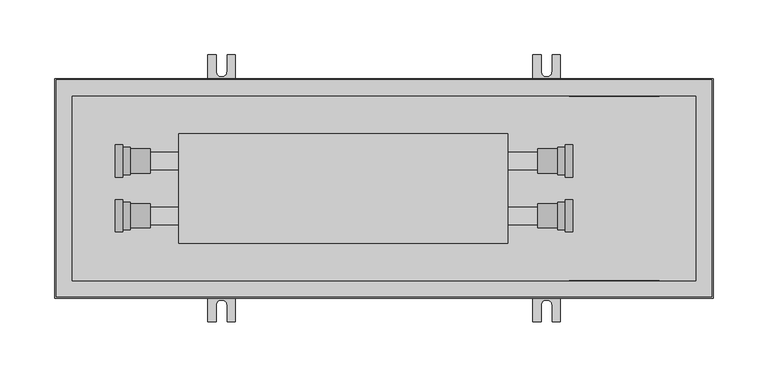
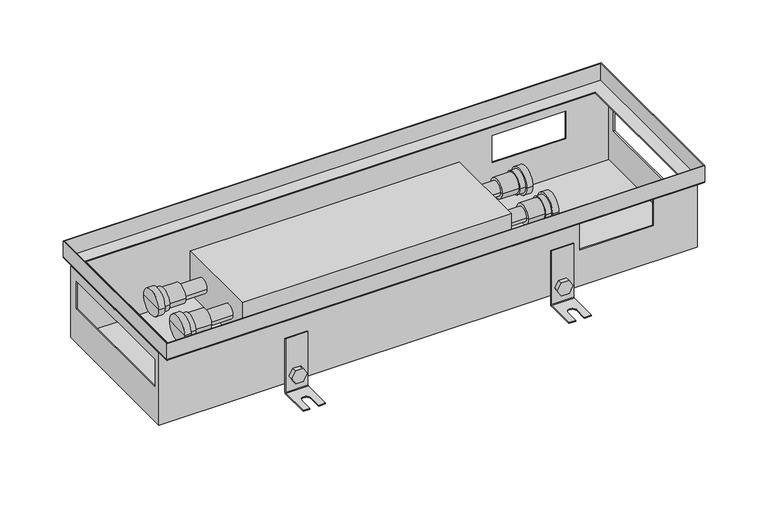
"""IFC4 building model written with IfcOpenShell, lengths in millimetres: proxy geometry, TECHNO_Конвектор встраиваемый_Usual_KVP-200_85-105-120 : KVP 200-105."""

from ifc_helpers import new_model, si_unit, point, frame, frame_2d, origin, place, context, project, spatial, polyline, circle_curve, ellipse_curve, trimmed, segment, composite_curve, outline, extrude, faceted_brep, source, transform, mapped, element, save
from ifc_brep_helpers import plane_surface, cylinder_surface, revolved_surface, advanced_brep


def mechanical_equipment_a27507a9(model_context):
    return source(origin(), model_context, "Body", "SolidModel", [
        extrude(outline(composite_curve([segment(trimmed(circle_curve(frame_2d((-95.5, 448.2)), 7.5), [point((-95.5, 440.7))], [point((-95.5, 455.7))], False, "CARTESIAN"), True, "CONTINUOUS"), segment(trimmed(circle_curve(frame_2d((-95.5, 448.2)), 7.5), [point((-95.5, 455.7))], [point((-95.5, 440.7))], False, "CARTESIAN"), True, "CONTINUOUS")], self_intersect=False)), frame((0.0, 85.2, 0.0), z_axis=(0.0, 1.0, 0.0), x_axis=(0.0, 0.0, 1.0)), (0.0, 0.0, 1.0), 1.5),
        extrude(outline(polyline([(-95.5, 439.539746), (-103.0, 443.869873), (-103.0, 452.530127), (-95.5, 456.860254), (-88.0, 452.530127), (-88.0, 443.869873), (-95.5, 439.539746)])), frame((0.0, 87.9, 0.0), z_axis=(0.0, 1.0, 0.0), x_axis=(0.0, 0.0, 1.0)), (0.0, 0.0, 1.0), 5.1),
        advanced_brep(
        [(460.7, 87.9, -50.5), (460.7, 86.7, -50.5), (460.7, 86.7, -113.5), (460.7, 88.7, -115.5), (460.7, 121.7, -115.5), (460.7, 121.7, -114.3), (460.7, 88.7, -114.3), (460.7, 87.9, -113.5), (435.7, 87.9, -50.5), (435.7, 87.9, -113.5), (435.7, 88.7, -114.3), (435.7, 121.7, -114.3), (435.7, 121.7, -115.5), (435.7, 88.7, -115.5), (435.7, 86.7, -113.5), (435.7, 86.7, -50.5), (453.2, 121.7, -114.3), (453.2, 106.7, -114.3), (443.2, 106.7, -114.3), (443.2, 121.7, -114.3), (443.2, 121.7, -115.5), (453.2, 121.7, -115.5), (443.2, 106.7, -115.5), (453.2, 106.7, -115.5)],
        [
            (0, 1),
            (1, 2),
            (2, 3, circle_curve(frame((460.7, 88.7, -113.5), z_axis=(1.0, 0.0, 0.0), x_axis=(0.0, 1.0, 0.0)), 2.0)),
            (3, 4),
            (4, 5),
            (5, 6),
            (6, 7, circle_curve(frame((460.7, 88.7, -113.5), z_axis=(-1.0, 0.0, 0.0), x_axis=(0.0, 1.0, 0.0)), 0.8)),
            (7, 0),
            (8, 9),
            (9, 10, circle_curve(frame((435.7, 88.7, -113.5), z_axis=(1.0, 0.0, 0.0), x_axis=(0.0, 1.0, 0.0)), 0.8)),
            (10, 11),
            (11, 12),
            (12, 13),
            (13, 14, circle_curve(frame((435.7, 88.7, -113.5), z_axis=(-1.0, 0.0, 0.0), x_axis=(0.0, 1.0, 0.0)), 2.0)),
            (14, 15),
            (15, 8),
            (7, 9),
            (8, 0),
            (6, 10),
            (5, 16),
            (16, 17),
            (17, 18, circle_curve(frame((448.2, 106.7, -114.3), z_axis=(0.0, 0.0, -1.0), x_axis=(1.0, 0.0, 0.0)), 5.0)),
            (18, 19),
            (19, 11),
            (19, 20),
            (20, 12),
            (4, 21),
            (21, 16),
            (3, 13),
            (20, 22),
            (22, 23, circle_curve(frame((448.2, 106.7, -115.5), z_axis=(0.0, 0.0, 1.0), x_axis=(1.0, 0.0, 0.0)), 5.0)),
            (23, 21),
            (2, 14),
            (1, 15),
            (18, 22),
            (23, 17),
        ],
        [
            plane_surface(frame((460.7, 87.9, -50.5), z_axis=(1.0, 0.0, 0.0), x_axis=(0.0, 0.0, -1.0))),
            plane_surface(frame((435.7, 87.9, -50.5), z_axis=(-1.0, 0.0, 0.0), x_axis=(0.0, 0.0, 1.0))),
            plane_surface(frame((460.7, 87.9, -50.5), z_axis=(0.0, 1.0, 0.0), x_axis=(-1.0, 0.0, 0.0))),
            revolved_surface(polyline([(435.7, 89.5, -113.5), (460.7, 89.5, -113.5)]), (435.7, 88.7, -113.5), (-1.0, 0.0, 0.0)),
            plane_surface(frame((460.7, 88.7, -114.3), z_axis=(0.0, 0.0, 1.0), x_axis=(-1.0, 0.0, 0.0))),
            plane_surface(frame((460.7, 121.7, -114.3), z_axis=(0.0, 1.0, 0.0), x_axis=(-1.0, 0.0, 0.0))),
            plane_surface(frame((460.7, 121.7, -115.5), z_axis=(0.0, 0.0, -1.0), x_axis=(-1.0, 0.0, 0.0))),
            cylinder_surface(frame((435.7, 88.7, -113.5), z_axis=(1.0, 0.0, 0.0), x_axis=(0.0, 1.0, 0.0)), 2.0),
            plane_surface(frame((460.7, 86.7, -113.5), z_axis=(0.0, -1.0, 0.0), x_axis=(-1.0, 0.0, 0.0))),
            plane_surface(frame((460.7, 86.7, -50.5), z_axis=(0.0, 0.0, 1.0), x_axis=(-1.0, 0.0, 0.0))),
            plane_surface(frame((443.2, 106.7, -114.3), z_axis=(1.0, 0.0, 0.0), x_axis=(0.0, 0.0, -1.0))),
            plane_surface(frame((453.2, 121.7, -114.3), z_axis=(-1.0, 0.0, 0.0), x_axis=(0.0, 0.0, -1.0))),
            revolved_surface(polyline([(453.2, 106.7, -114.3), (453.2, 106.7, -115.5)]), (448.2, 106.7, -115.5), (0.0, 0.0, 1.0)),
        ],
        [
            (0, [[1, 2, 3, 4, 5, 6, 7, 8]]),
            (1, [[9, 10, 11, 12, 13, 14, 15, 16]]),
            (2, [[17, -9, 18, -8]]),
            (3, [[19, -10, -17, -7]]),
            (4, [[20, 21, 22, 23, 24, -11, -19, -6]]),
            (5, [[-24, 25, 26, -12]]),
            (5, [[27, 28, -20, -5]]),
            (6, [[29, -13, -26, 30, 31, 32, -27, -4]]),
            (7, [[33, -14, -29, -3]]),
            (8, [[34, -15, -33, -2]]),
            (9, [[-18, -16, -34, -1]]),
            (10, [[-30, -25, -23, 35]]),
            (11, [[-21, -28, -32, 36]]),
            (12, [[-22, -36, -31, -35]]),
        ],
    ),
        extrude(outline(composite_curve([segment(trimmed(circle_curve(frame_2d((-95.5, 448.2)), 7.5), [point((-95.5, 440.7))], [point((-95.5, 455.7))], False, "CARTESIAN"), True, "CONTINUOUS"), segment(trimmed(circle_curve(frame_2d((-95.5, 448.2)), 7.5), [point((-95.5, 455.7))], [point((-95.5, 440.7))], False, "CARTESIAN"), True, "CONTINUOUS")], self_intersect=False)), frame((0.0, -86.7, 0.0), z_axis=(0.0, 1.0, 0.0), x_axis=(0.0, 0.0, 1.0)), (0.0, 0.0, 1.0), 1.5),
        extrude(outline(polyline([(-95.5, 439.539746), (-103.0, 443.869873), (-103.0, 452.530127), (-95.5, 456.860254), (-88.0, 452.530127), (-88.0, 443.869873), (-95.5, 439.539746)])), frame((0.0, -93.0, 0.0), z_axis=(0.0, 1.0, 0.0), x_axis=(0.0, 0.0, 1.0)), (0.0, 0.0, 1.0), 5.1),
        advanced_brep(
        [(460.7, -87.9, -50.5), (460.7, -87.9, -113.5), (460.7, -88.7, -114.3), (460.7, -121.7, -114.3), (460.7, -121.7, -115.5), (460.7, -88.7, -115.5), (460.7, -86.7, -113.5), (460.7, -86.7, -50.5), (435.7, -87.9, -50.5), (435.7, -86.7, -50.5), (435.7, -86.7, -113.5), (435.7, -88.7, -115.5), (435.7, -121.7, -115.5), (435.7, -121.7, -114.3), (435.7, -88.7, -114.3), (435.7, -87.9, -113.5), (443.2, -121.7, -114.3), (443.2, -106.7, -114.3), (453.2, -106.7, -114.3), (453.2, -121.7, -114.3), (453.2, -121.7, -115.5), (443.2, -121.7, -115.5), (453.2, -106.7, -115.5), (443.2, -106.7, -115.5)],
        [
            (0, 1),
            (1, 2, circle_curve(frame((460.7, -88.7, -113.5), z_axis=(-1.0, 0.0, 0.0), x_axis=(0.0, -1.0, 0.0)), 0.8)),
            (2, 3),
            (3, 4),
            (4, 5),
            (5, 6, circle_curve(frame((460.7, -88.7, -113.5), z_axis=(1.0, 0.0, 0.0), x_axis=(0.0, -1.0, 0.0)), 2.0)),
            (6, 7),
            (7, 0),
            (8, 9),
            (9, 10),
            (10, 11, circle_curve(frame((435.7, -88.7, -113.5), z_axis=(-1.0, 0.0, 0.0), x_axis=(0.0, -1.0, 0.0)), 2.0)),
            (11, 12),
            (12, 13),
            (13, 14),
            (14, 15, circle_curve(frame((435.7, -88.7, -113.5), z_axis=(1.0, 0.0, 0.0), x_axis=(0.0, -1.0, 0.0)), 0.8)),
            (15, 8),
            (0, 8),
            (15, 1),
            (14, 2),
            (13, 16),
            (16, 17),
            (17, 18, circle_curve(frame((448.2, -106.7, -114.3), z_axis=(0.0, 0.0, -1.0), x_axis=(1.0, 0.0, 0.0)), 5.0)),
            (18, 19),
            (19, 3),
            (19, 20),
            (20, 4),
            (12, 21),
            (21, 16),
            (20, 22),
            (22, 23, circle_curve(frame((448.2, -106.7, -115.5), z_axis=(0.0, 0.0, 1.0), x_axis=(1.0, 0.0, 0.0)), 5.0)),
            (23, 21),
            (11, 5),
            (10, 6),
            (9, 7),
            (23, 17),
            (18, 22),
        ],
        [
            plane_surface(frame((460.7, -87.9, -50.5), z_axis=(1.0, 0.0, 0.0), x_axis=(0.0, 0.0, -1.0))),
            plane_surface(frame((435.7, -87.9, -50.5), z_axis=(-1.0, 0.0, 0.0), x_axis=(0.0, 0.0, 1.0))),
            plane_surface(frame((460.7, -87.9, -50.5), z_axis=(0.0, -1.0, 0.0), x_axis=(-1.0, 0.0, 0.0))),
            revolved_surface(polyline([(435.7, -89.5, -113.5), (460.7, -89.5, -113.5)]), (435.7, -88.7, -113.5), (-1.0, 0.0, 0.0)),
            plane_surface(frame((460.7, -88.7, -114.3), z_axis=(0.0, 0.0, 1.0), x_axis=(-1.0, 0.0, 0.0))),
            plane_surface(frame((460.7, -121.7, -114.3), z_axis=(0.0, -1.0, 0.0), x_axis=(-1.0, 0.0, 0.0))),
            plane_surface(frame((460.7, -121.7, -115.5), z_axis=(0.0, 0.0, -1.0), x_axis=(-1.0, 0.0, 0.0))),
            cylinder_surface(frame((435.7, -88.7, -113.5), z_axis=(1.0, 0.0, 0.0), x_axis=(0.0, -1.0, 0.0)), 2.0),
            plane_surface(frame((460.7, -86.7, -113.5), z_axis=(0.0, 1.0, 0.0), x_axis=(-1.0, 0.0, 0.0))),
            plane_surface(frame((460.7, -86.7, -50.5), z_axis=(0.0, 0.0, 1.0), x_axis=(-1.0, 0.0, 0.0))),
            plane_surface(frame((443.2, -106.7, -114.3), z_axis=(1.0, 0.0, 0.0), x_axis=(0.0, 0.0, -1.0))),
            plane_surface(frame((453.2, -121.7, -114.3), z_axis=(-1.0, 0.0, 0.0), x_axis=(0.0, 0.0, -1.0))),
            revolved_surface(polyline([(453.2, -106.7, -114.3), (453.2, -106.7, -115.5)]), (448.2, -106.7, -115.5), (0.0, 0.0, 1.0)),
        ],
        [
            (0, [[1, 2, 3, 4, 5, 6, 7, 8]]),
            (1, [[9, 10, 11, 12, 13, 14, 15, 16]]),
            (2, [[-1, 17, -16, 18]]),
            (3, [[-2, -18, -15, 19]]),
            (4, [[-3, -19, -14, 20, 21, 22, 23, 24]]),
            (5, [[-4, -24, 25, 26]]),
            (5, [[-13, 27, 28, -20]]),
            (6, [[-5, -26, 29, 30, 31, -27, -12, 32]]),
            (7, [[-6, -32, -11, 33]]),
            (8, [[-7, -33, -10, 34]]),
            (9, [[-8, -34, -9, -17]]),
            (10, [[35, -21, -28, -31]]),
            (11, [[36, -29, -25, -23]]),
            (12, [[-35, -30, -36, -22]]),
        ],
    ),
        extrude(outline(composite_curve([segment(trimmed(circle_curve(frame_2d((-95.5, 152.0)), 7.5), [point((-95.5, 144.5))], [point((-95.5, 159.5))], False, "CARTESIAN"), True, "CONTINUOUS"), segment(trimmed(circle_curve(frame_2d((-95.5, 152.0)), 7.5), [point((-95.5, 159.5))], [point((-95.5, 144.5))], False, "CARTESIAN"), True, "CONTINUOUS")], self_intersect=False)), frame((0.0, 85.2, 0.0), z_axis=(0.0, 1.0, 0.0), x_axis=(0.0, 0.0, 1.0)), (0.0, 0.0, 1.0), 1.5),
        extrude(outline(polyline([(-95.5, 143.339746), (-103.0, 147.669873), (-103.0, 156.330127), (-95.5, 160.660254), (-88.0, 156.330127), (-88.0, 147.669873), (-95.5, 143.339746)])), frame((0.0, 87.9, 0.0), z_axis=(0.0, 1.0, 0.0), x_axis=(0.0, 0.0, 1.0)), (0.0, 0.0, 1.0), 5.1),
        advanced_brep(
        [(164.5, 87.9, -50.5), (164.5, 86.7, -50.5), (164.5, 86.7, -113.5), (164.5, 88.7, -115.5), (164.5, 121.7, -115.5), (164.5, 121.7, -114.3), (164.5, 88.7, -114.3), (164.5, 87.9, -113.5), (139.5, 87.9, -50.5), (139.5, 87.9, -113.5), (139.5, 88.7, -114.3), (139.5, 121.7, -114.3), (139.5, 121.7, -115.5), (139.5, 88.7, -115.5), (139.5, 86.7, -113.5), (139.5, 86.7, -50.5), (157.0, 121.7, -114.3), (157.0, 106.7, -114.3), (147.0, 106.7, -114.3), (147.0, 121.7, -114.3), (147.0, 121.7, -115.5), (157.0, 121.7, -115.5), (147.0, 106.7, -115.5), (157.0, 106.7, -115.5)],
        [
            (0, 1),
            (1, 2),
            (2, 3, circle_curve(frame((164.5, 88.7, -113.5), z_axis=(1.0, 0.0, 0.0), x_axis=(0.0, 1.0, 0.0)), 2.0)),
            (3, 4),
            (4, 5),
            (5, 6),
            (6, 7, circle_curve(frame((164.5, 88.7, -113.5), z_axis=(-1.0, 0.0, 0.0), x_axis=(0.0, 1.0, 0.0)), 0.8)),
            (7, 0),
            (8, 9),
            (9, 10, circle_curve(frame((139.5, 88.7, -113.5), z_axis=(1.0, 0.0, 0.0), x_axis=(0.0, 1.0, 0.0)), 0.8)),
            (10, 11),
            (11, 12),
            (12, 13),
            (13, 14, circle_curve(frame((139.5, 88.7, -113.5), z_axis=(-1.0, 0.0, 0.0), x_axis=(0.0, 1.0, 0.0)), 2.0)),
            (14, 15),
            (15, 8),
            (7, 9),
            (8, 0),
            (6, 10),
            (5, 16),
            (16, 17),
            (17, 18, circle_curve(frame((152.0, 106.7, -114.3), z_axis=(0.0, 0.0, -1.0), x_axis=(1.0, 0.0, 0.0)), 5.0)),
            (18, 19),
            (19, 11),
            (19, 20),
            (20, 12),
            (4, 21),
            (21, 16),
            (3, 13),
            (20, 22),
            (22, 23, circle_curve(frame((152.0, 106.7, -115.5), z_axis=(0.0, 0.0, 1.0), x_axis=(1.0, 0.0, 0.0)), 5.0)),
            (23, 21),
            (2, 14),
            (1, 15),
            (18, 22),
            (23, 17),
        ],
        [
            plane_surface(frame((164.5, 87.9, -50.5), z_axis=(1.0, 0.0, 0.0), x_axis=(0.0, 0.0, -1.0))),
            plane_surface(frame((139.5, 87.9, -50.5), z_axis=(-1.0, 0.0, 0.0), x_axis=(0.0, 0.0, 1.0))),
            plane_surface(frame((164.5, 87.9, -50.5), z_axis=(0.0, 1.0, 0.0), x_axis=(-1.0, 0.0, 0.0))),
            revolved_surface(polyline([(139.5, 89.5, -113.5), (164.5, 89.5, -113.5)]), (139.5, 88.7, -113.5), (-1.0, 0.0, 0.0)),
            plane_surface(frame((164.5, 88.7, -114.3), z_axis=(0.0, 0.0, 1.0), x_axis=(-1.0, 0.0, 0.0))),
            plane_surface(frame((164.5, 121.7, -114.3), z_axis=(0.0, 1.0, 0.0), x_axis=(-1.0, 0.0, 0.0))),
            plane_surface(frame((164.5, 121.7, -115.5), z_axis=(0.0, 0.0, -1.0), x_axis=(-1.0, 0.0, 0.0))),
            cylinder_surface(frame((139.5, 88.7, -113.5), z_axis=(1.0, 0.0, 0.0), x_axis=(0.0, 1.0, 0.0)), 2.0),
            plane_surface(frame((164.5, 86.7, -113.5), z_axis=(0.0, -1.0, 0.0), x_axis=(-1.0, 0.0, 0.0))),
            plane_surface(frame((164.5, 86.7, -50.5), z_axis=(0.0, 0.0, 1.0), x_axis=(-1.0, 0.0, 0.0))),
            plane_surface(frame((147.0, 106.7, -114.3), z_axis=(1.0, 0.0, 0.0), x_axis=(0.0, 0.0, -1.0))),
            plane_surface(frame((157.0, 121.7, -114.3), z_axis=(-1.0, 0.0, 0.0), x_axis=(0.0, 0.0, -1.0))),
            revolved_surface(polyline([(157.0, 106.7, -114.3), (157.0, 106.7, -115.5)]), (152.0, 106.7, -115.5), (0.0, 0.0, 1.0)),
        ],
        [
            (0, [[1, 2, 3, 4, 5, 6, 7, 8]]),
            (1, [[9, 10, 11, 12, 13, 14, 15, 16]]),
            (2, [[17, -9, 18, -8]]),
            (3, [[19, -10, -17, -7]]),
            (4, [[20, 21, 22, 23, 24, -11, -19, -6]]),
            (5, [[-24, 25, 26, -12]]),
            (5, [[27, 28, -20, -5]]),
            (6, [[29, -13, -26, 30, 31, 32, -27, -4]]),
            (7, [[33, -14, -29, -3]]),
            (8, [[34, -15, -33, -2]]),
            (9, [[-18, -16, -34, -1]]),
            (10, [[-30, -25, -23, 35]]),
            (11, [[-21, -28, -32, 36]]),
            (12, [[-22, -36, -31, -35]]),
        ],
    ),
        extrude(outline(composite_curve([segment(trimmed(circle_curve(frame_2d((-95.5, 152.0)), 7.5), [point((-95.5, 144.5))], [point((-95.5, 159.5))], False, "CARTESIAN"), True, "CONTINUOUS"), segment(trimmed(circle_curve(frame_2d((-95.5, 152.0)), 7.5), [point((-95.5, 159.5))], [point((-95.5, 144.5))], False, "CARTESIAN"), True, "CONTINUOUS")], self_intersect=False)), frame((0.0, -86.7, 0.0), z_axis=(0.0, 1.0, 0.0), x_axis=(0.0, 0.0, 1.0)), (0.0, 0.0, 1.0), 1.5),
        extrude(outline(polyline([(-95.5, 143.339746), (-103.0, 147.669873), (-103.0, 156.330127), (-95.5, 160.660254), (-88.0, 156.330127), (-88.0, 147.669873), (-95.5, 143.339746)])), frame((0.0, -93.0, 0.0), z_axis=(0.0, 1.0, 0.0), x_axis=(0.0, 0.0, 1.0)), (0.0, 0.0, 1.0), 5.1),
        advanced_brep(
        [(164.5, -87.9, -50.5), (164.5, -87.9, -113.5), (164.5, -88.7, -114.3), (164.5, -121.7, -114.3), (164.5, -121.7, -115.5), (164.5, -88.7, -115.5), (164.5, -86.7, -113.5), (164.5, -86.7, -50.5), (139.5, -87.9, -50.5), (139.5, -86.7, -50.5), (139.5, -86.7, -113.5), (139.5, -88.7, -115.5), (139.5, -121.7, -115.5), (139.5, -121.7, -114.3), (139.5, -88.7, -114.3), (139.5, -87.9, -113.5), (147.0, -121.7, -114.3), (147.0, -106.7, -114.3), (157.0, -106.7, -114.3), (157.0, -121.7, -114.3), (157.0, -121.7, -115.5), (147.0, -121.7, -115.5), (157.0, -106.7, -115.5), (147.0, -106.7, -115.5)],
        [
            (0, 1),
            (1, 2, circle_curve(frame((164.5, -88.7, -113.5), z_axis=(-1.0, 0.0, 0.0), x_axis=(0.0, -1.0, 0.0)), 0.8)),
            (2, 3),
            (3, 4),
            (4, 5),
            (5, 6, circle_curve(frame((164.5, -88.7, -113.5), z_axis=(1.0, 0.0, 0.0), x_axis=(0.0, -1.0, 0.0)), 2.0)),
            (6, 7),
            (7, 0),
            (8, 9),
            (9, 10),
            (10, 11, circle_curve(frame((139.5, -88.7, -113.5), z_axis=(-1.0, 0.0, 0.0), x_axis=(0.0, -1.0, 0.0)), 2.0)),
            (11, 12),
            (12, 13),
            (13, 14),
            (14, 15, circle_curve(frame((139.5, -88.7, -113.5), z_axis=(1.0, 0.0, 0.0), x_axis=(0.0, -1.0, 0.0)), 0.8)),
            (15, 8),
            (0, 8),
            (15, 1),
            (14, 2),
            (13, 16),
            (16, 17),
            (17, 18, circle_curve(frame((152.0, -106.7, -114.3), z_axis=(0.0, 0.0, -1.0), x_axis=(1.0, 0.0, 0.0)), 5.0)),
            (18, 19),
            (19, 3),
            (19, 20),
            (20, 4),
            (12, 21),
            (21, 16),
            (20, 22),
            (22, 23, circle_curve(frame((152.0, -106.7, -115.5), z_axis=(0.0, 0.0, 1.0), x_axis=(1.0, 0.0, 0.0)), 5.0)),
            (23, 21),
            (11, 5),
            (10, 6),
            (9, 7),
            (23, 17),
            (18, 22),
        ],
        [
            plane_surface(frame((164.5, -87.9, -50.5), z_axis=(1.0, 0.0, 0.0), x_axis=(0.0, 0.0, -1.0))),
            plane_surface(frame((139.5, -87.9, -50.5), z_axis=(-1.0, 0.0, 0.0), x_axis=(0.0, 0.0, 1.0))),
            plane_surface(frame((164.5, -87.9, -50.5), z_axis=(0.0, -1.0, 0.0), x_axis=(-1.0, 0.0, 0.0))),
            revolved_surface(polyline([(139.5, -89.5, -113.5), (164.5, -89.5, -113.5)]), (139.5, -88.7, -113.5), (-1.0, 0.0, 0.0)),
            plane_surface(frame((164.5, -88.7, -114.3), z_axis=(0.0, 0.0, 1.0), x_axis=(-1.0, 0.0, 0.0))),
            plane_surface(frame((164.5, -121.7, -114.3), z_axis=(0.0, -1.0, 0.0), x_axis=(-1.0, 0.0, 0.0))),
            plane_surface(frame((164.5, -121.7, -115.5), z_axis=(0.0, 0.0, -1.0), x_axis=(-1.0, 0.0, 0.0))),
            cylinder_surface(frame((139.5, -88.7, -113.5), z_axis=(1.0, 0.0, 0.0), x_axis=(0.0, -1.0, 0.0)), 2.0),
            plane_surface(frame((164.5, -86.7, -113.5), z_axis=(0.0, 1.0, 0.0), x_axis=(-1.0, 0.0, 0.0))),
            plane_surface(frame((164.5, -86.7, -50.5), z_axis=(0.0, 0.0, 1.0), x_axis=(-1.0, 0.0, 0.0))),
            plane_surface(frame((147.0, -106.7, -114.3), z_axis=(1.0, 0.0, 0.0), x_axis=(0.0, 0.0, -1.0))),
            plane_surface(frame((157.0, -121.7, -114.3), z_axis=(-1.0, 0.0, 0.0), x_axis=(0.0, 0.0, -1.0))),
            revolved_surface(polyline([(157.0, -106.7, -114.3), (157.0, -106.7, -115.5)]), (152.0, -106.7, -115.5), (0.0, 0.0, 1.0)),
        ],
        [
            (0, [[1, 2, 3, 4, 5, 6, 7, 8]]),
            (1, [[9, 10, 11, 12, 13, 14, 15, 16]]),
            (2, [[-1, 17, -16, 18]]),
            (3, [[-2, -18, -15, 19]]),
            (4, [[-3, -19, -14, 20, 21, 22, 23, 24]]),
            (5, [[-4, -24, 25, 26]]),
            (5, [[-13, 27, 28, -20]]),
            (6, [[-5, -26, 29, 30, 31, -27, -12, 32]]),
            (7, [[-6, -32, -11, 33]]),
            (8, [[-7, -33, -10, 34]]),
            (9, [[-8, -34, -9, -17]]),
            (10, [[35, -21, -28, -31]]),
            (11, [[36, -29, -25, -23]]),
            (12, [[-35, -30, -36, -22]]),
        ],
    ),
        advanced_brep(
        [(87.0, 14.0, -46.3), (87.0, 36.0, -46.3), (87.0, 25.0, -46.3), (68.5, 14.0, -46.3), (68.5, 36.0, -46.3), (68.5, 12.5, -46.3), (68.5, 37.5, -46.3), (62.0, 12.5, -46.3), (62.0, 37.5, -46.3), (62.0, 10.3, -46.3), (62.0, 39.7, -46.3), (55.0, 10.3, -46.3), (55.0, 39.7, -46.3), (55.0, 25.0, -46.3)],
        [
            (0, 1, circle_curve(frame((87.0, 25.0, -46.3), z_axis=(1.0, 0.0, 0.0), x_axis=(0.0, 1.0, 0.0)), 11.0)),
            (1, 2),
            (2, 0),
            (1, 0, circle_curve(frame((87.0, 25.0, -46.3), z_axis=(1.0, 0.0, 0.0), x_axis=(0.0, 1.0, 0.0)), 11.0)),
            (3, 4, circle_curve(frame((68.5, 25.0, -46.3), z_axis=(1.0, 0.0, 0.0), x_axis=(0.0, 1.0, 0.0)), 11.0)),
            (4, 1),
            (0, 3),
            (4, 3, circle_curve(frame((68.5, 25.0, -46.3), z_axis=(1.0, 0.0, 0.0), x_axis=(0.0, 1.0, 0.0)), 11.0)),
            (5, 6, circle_curve(frame((68.5, 25.0, -46.3), z_axis=(1.0, 0.0, 0.0), x_axis=(0.0, 1.0, 0.0)), 12.5)),
            (6, 4),
            (3, 5),
            (6, 5, circle_curve(frame((68.5, 25.0, -46.3), z_axis=(1.0, 0.0, 0.0), x_axis=(0.0, 1.0, 0.0)), 12.5)),
            (7, 8, circle_curve(frame((62.0, 25.0, -46.3), z_axis=(1.0, 0.0, 0.0), x_axis=(0.0, 1.0, 0.0)), 12.5)),
            (8, 6),
            (5, 7),
            (8, 7, circle_curve(frame((62.0, 25.0, -46.3), z_axis=(1.0, 0.0, 0.0), x_axis=(0.0, 1.0, 0.0)), 12.5)),
            (9, 10, circle_curve(frame((62.0, 25.0, -46.3), z_axis=(1.0, 0.0, 0.0), x_axis=(0.0, 1.0, 0.0)), 14.7)),
            (10, 8),
            (7, 9),
            (10, 9, circle_curve(frame((62.0, 25.0, -46.3), z_axis=(1.0, 0.0, 0.0), x_axis=(0.0, 1.0, 0.0)), 14.7)),
            (11, 12, circle_curve(frame((55.0, 25.0, -46.3), z_axis=(1.0, 0.0, 0.0), x_axis=(0.0, 1.0, 0.0)), 14.7)),
            (12, 10),
            (9, 11),
            (12, 11, circle_curve(frame((55.0, 25.0, -46.3), z_axis=(1.0, 0.0, 0.0), x_axis=(0.0, 1.0, 0.0)), 14.7)),
            (13, 12),
            (11, 13),
        ],
        [
            plane_surface(frame((87.0, 25.0, -46.3), z_axis=(1.0, 0.0, 0.0), x_axis=(0.0, 1.0, 0.0))),
            cylinder_surface(frame((45.0, 25.0, -46.3), z_axis=(-1.0, 0.0, 0.0), x_axis=(0.0, 1.0, 0.0)), 11.0),
            plane_surface(frame((68.5, 25.0, -46.3), z_axis=(1.0, 0.0, 0.0), x_axis=(0.0, 1.0, 0.0))),
            cylinder_surface(frame((45.0, 25.0, -46.3), z_axis=(-1.0, 0.0, 0.0), x_axis=(0.0, 1.0, 0.0)), 12.5),
            plane_surface(frame((62.0, 25.0, -46.3), z_axis=(1.0, 0.0, 0.0), x_axis=(0.0, 1.0, 0.0))),
            cylinder_surface(frame((45.0, 25.0, -46.3), z_axis=(-1.0, 0.0, 0.0), x_axis=(0.0, 1.0, 0.0)), 14.7),
            plane_surface(frame((55.0, 25.0, -46.3), z_axis=(-1.0, 0.0, 0.0), x_axis=(0.0, 1.0, 0.0))),
        ],
        [
            (0, [[1, 2, 3]]),
            (0, [[4, -3, -2]]),
            (1, [[5, 6, -1, 7]]),
            (1, [[8, -7, -4, -6]]),
            (2, [[9, 10, -5, 11]]),
            (2, [[12, -11, -8, -10]]),
            (3, [[13, 14, -9, 15]]),
            (3, [[16, -15, -12, -14]]),
            (4, [[17, 18, -13, 19]]),
            (4, [[20, -19, -16, -18]]),
            (5, [[21, 22, -17, 23]]),
            (5, [[24, -23, -20, -22]]),
            (6, [[25, -21, 26]]),
            (6, [[-26, -24, -25]]),
        ],
    ),
        advanced_brep(
        [(87.0, -36.0, -46.3), (87.0, -14.0, -46.3), (87.0, -25.0, -46.3), (68.5, -36.0, -46.3), (68.5, -14.0, -46.3), (68.5, -37.5, -46.3), (68.5, -12.5, -46.3), (62.0, -37.5, -46.3), (62.0, -12.5, -46.3), (62.0, -39.7, -46.3), (62.0, -10.3, -46.3), (55.0, -39.7, -46.3), (55.0, -10.3, -46.3), (55.0, -25.0, -46.3)],
        [
            (0, 1, circle_curve(frame((87.0, -25.0, -46.3), z_axis=(1.0, 0.0, 0.0), x_axis=(0.0, 1.0, 0.0)), 11.0)),
            (1, 2),
            (2, 0),
            (1, 0, circle_curve(frame((87.0, -25.0, -46.3), z_axis=(1.0, 0.0, 0.0), x_axis=(0.0, 1.0, 0.0)), 11.0)),
            (3, 4, circle_curve(frame((68.5, -25.0, -46.3), z_axis=(1.0, 0.0, 0.0), x_axis=(0.0, 1.0, 0.0)), 11.0)),
            (4, 1),
            (0, 3),
            (4, 3, circle_curve(frame((68.5, -25.0, -46.3), z_axis=(1.0, 0.0, 0.0), x_axis=(0.0, 1.0, 0.0)), 11.0)),
            (5, 6, circle_curve(frame((68.5, -25.0, -46.3), z_axis=(1.0, 0.0, 0.0), x_axis=(0.0, 1.0, 0.0)), 12.5)),
            (6, 4),
            (3, 5),
            (6, 5, circle_curve(frame((68.5, -25.0, -46.3), z_axis=(1.0, 0.0, 0.0), x_axis=(0.0, 1.0, 0.0)), 12.5)),
            (7, 8, circle_curve(frame((62.0, -25.0, -46.3), z_axis=(1.0, 0.0, 0.0), x_axis=(0.0, 1.0, 0.0)), 12.5)),
            (8, 6),
            (5, 7),
            (8, 7, circle_curve(frame((62.0, -25.0, -46.3), z_axis=(1.0, 0.0, 0.0), x_axis=(0.0, 1.0, 0.0)), 12.5)),
            (9, 10, circle_curve(frame((62.0, -25.0, -46.3), z_axis=(1.0, 0.0, 0.0), x_axis=(0.0, 1.0, 0.0)), 14.7)),
            (10, 8),
            (7, 9),
            (10, 9, circle_curve(frame((62.0, -25.0, -46.3), z_axis=(1.0, 0.0, 0.0), x_axis=(0.0, 1.0, 0.0)), 14.7)),
            (11, 12, circle_curve(frame((55.0, -25.0, -46.3), z_axis=(1.0, 0.0, 0.0), x_axis=(0.0, 1.0, 0.0)), 14.7)),
            (12, 10),
            (9, 11),
            (12, 11, circle_curve(frame((55.0, -25.0, -46.3), z_axis=(1.0, 0.0, 0.0), x_axis=(0.0, 1.0, 0.0)), 14.7)),
            (13, 12),
            (11, 13),
        ],
        [
            plane_surface(frame((87.0, -25.0, -46.3), z_axis=(1.0, 0.0, 0.0), x_axis=(0.0, 1.0, 0.0))),
            cylinder_surface(frame((45.0, -25.0, -46.3), z_axis=(-1.0, 0.0, 0.0), x_axis=(0.0, 1.0, 0.0)), 11.0),
            plane_surface(frame((68.5, -25.0, -46.3), z_axis=(1.0, 0.0, 0.0), x_axis=(0.0, 1.0, 0.0))),
            cylinder_surface(frame((45.0, -25.0, -46.3), z_axis=(-1.0, 0.0, 0.0), x_axis=(0.0, 1.0, 0.0)), 12.5),
            plane_surface(frame((62.0, -25.0, -46.3), z_axis=(1.0, 0.0, 0.0), x_axis=(0.0, 1.0, 0.0))),
            cylinder_surface(frame((45.0, -25.0, -46.3), z_axis=(-1.0, 0.0, 0.0), x_axis=(0.0, 1.0, 0.0)), 14.7),
            plane_surface(frame((55.0, -25.0, -46.3), z_axis=(-1.0, 0.0, 0.0), x_axis=(0.0, 1.0, 0.0))),
        ],
        [
            (0, [[1, 2, 3]]),
            (0, [[4, -3, -2]]),
            (1, [[5, 6, -1, 7]]),
            (1, [[8, -7, -4, -6]]),
            (2, [[9, 10, -5, 11]]),
            (2, [[12, -11, -8, -10]]),
            (3, [[13, 14, -9, 15]]),
            (3, [[16, -15, -12, -14]]),
            (4, [[17, 18, -13, 19]]),
            (4, [[20, -19, -16, -18]]),
            (5, [[21, 22, -17, 23]]),
            (5, [[24, -23, -20, -22]]),
            (6, [[25, -21, 26]]),
            (6, [[-26, -24, -25]]),
        ],
    ),
        extrude(outline(polyline([(413.0, 50.0), (413.0, -50.0), (113.0, -50.0), (113.0, 50.0), (413.0, 50.0)])), frame((0.0, 0.0, -71.3), z_axis=(0.0, 0.0, 1.0), x_axis=(1.0, 0.0, 0.0)), (0.0, 0.0, 1.0), 50.0),
        advanced_brep(
        [(440.0, 25.0, -46.3), (440.0, 36.0, -46.3), (440.0, 14.0, -46.3), (458.5, 36.0, -46.3), (458.5, 14.0, -46.3), (458.5, 37.5, -46.3), (458.5, 12.5, -46.3), (465.0, 37.5, -46.3), (465.0, 12.5, -46.3), (465.0, 39.7, -46.3), (465.0, 10.3, -46.3), (472.0, 39.7, -46.3), (472.0, 10.3, -46.3), (472.0, 25.0, -46.3)],
        [
            (0, 1),
            (1, 2, circle_curve(frame((440.0, 25.0, -46.3), z_axis=(-1.0, 0.0, 0.0), x_axis=(0.0, 1.0, 0.0)), 11.0)),
            (2, 0),
            (2, 1, circle_curve(frame((440.0, 25.0, -46.3), z_axis=(-1.0, 0.0, 0.0), x_axis=(0.0, 1.0, 0.0)), 11.0)),
            (1, 3),
            (3, 4, circle_curve(frame((458.5, 25.0, -46.3), z_axis=(-1.0, 0.0, 0.0), x_axis=(0.0, 1.0, 0.0)), 11.0)),
            (4, 2),
            (4, 3, circle_curve(frame((458.5, 25.0, -46.3), z_axis=(-1.0, 0.0, 0.0), x_axis=(0.0, 1.0, 0.0)), 11.0)),
            (3, 5),
            (5, 6, circle_curve(frame((458.5, 25.0, -46.3), z_axis=(-1.0, 0.0, 0.0), x_axis=(0.0, 1.0, 0.0)), 12.5)),
            (6, 4),
            (6, 5, circle_curve(frame((458.5, 25.0, -46.3), z_axis=(-1.0, 0.0, 0.0), x_axis=(0.0, 1.0, 0.0)), 12.5)),
            (5, 7),
            (7, 8, circle_curve(frame((465.0, 25.0, -46.3), z_axis=(-1.0, 0.0, 0.0), x_axis=(0.0, 1.0, 0.0)), 12.5)),
            (8, 6),
            (8, 7, circle_curve(frame((465.0, 25.0, -46.3), z_axis=(-1.0, 0.0, 0.0), x_axis=(0.0, 1.0, 0.0)), 12.5)),
            (7, 9),
            (9, 10, circle_curve(frame((465.0, 25.0, -46.3), z_axis=(-1.0, 0.0, 0.0), x_axis=(0.0, 1.0, 0.0)), 14.7)),
            (10, 8),
            (10, 9, circle_curve(frame((465.0, 25.0, -46.3), z_axis=(-1.0, 0.0, 0.0), x_axis=(0.0, 1.0, 0.0)), 14.7)),
            (9, 11),
            (11, 12, circle_curve(frame((472.0, 25.0, -46.3), z_axis=(-1.0, 0.0, 0.0), x_axis=(0.0, 1.0, 0.0)), 14.7)),
            (12, 10),
            (12, 11, circle_curve(frame((472.0, 25.0, -46.3), z_axis=(-1.0, 0.0, 0.0), x_axis=(0.0, 1.0, 0.0)), 14.7)),
            (11, 13),
            (13, 12),
        ],
        [
            plane_surface(frame((440.0, 25.0, -46.3), z_axis=(-1.0, 0.0, 0.0), x_axis=(0.0, 1.0, 0.0))),
            cylinder_surface(frame((468.0, 25.0, -46.3), z_axis=(-1.0, 0.0, 0.0), x_axis=(0.0, 1.0, 0.0)), 11.0),
            plane_surface(frame((458.5, 25.0, -46.3), z_axis=(-1.0, 0.0, 0.0), x_axis=(0.0, 1.0, 0.0))),
            cylinder_surface(frame((468.0, 25.0, -46.3), z_axis=(-1.0, 0.0, 0.0), x_axis=(0.0, 1.0, 0.0)), 12.5),
            plane_surface(frame((465.0, 25.0, -46.3), z_axis=(-1.0, 0.0, 0.0), x_axis=(0.0, 1.0, 0.0))),
            cylinder_surface(frame((468.0, 25.0, -46.3), z_axis=(-1.0, 0.0, 0.0), x_axis=(0.0, 1.0, 0.0)), 14.7),
            plane_surface(frame((472.0, 25.0, -46.3), z_axis=(1.0, 0.0, 0.0), x_axis=(0.0, 1.0, 0.0))),
        ],
        [
            (0, [[1, 2, 3]]),
            (0, [[-3, 4, -1]]),
            (1, [[-2, 5, 6, 7]]),
            (1, [[-4, -7, 8, -5]]),
            (2, [[-6, 9, 10, 11]]),
            (2, [[-8, -11, 12, -9]]),
            (3, [[-10, 13, 14, 15]]),
            (3, [[-12, -15, 16, -13]]),
            (4, [[-14, 17, 18, 19]]),
            (4, [[-16, -19, 20, -17]]),
            (5, [[-18, 21, 22, 23]]),
            (5, [[-20, -23, 24, -21]]),
            (6, [[-22, 25, 26]]),
            (6, [[-24, -26, -25]]),
        ],
    ),
        advanced_brep(
        [(440.0, -25.0, -46.3), (440.0, -14.0, -46.3), (440.0, -36.0, -46.3), (458.5, -14.0, -46.3), (458.5, -36.0, -46.3), (458.5, -12.5, -46.3), (458.5, -37.5, -46.3), (465.0, -12.5, -46.3), (465.0, -37.5, -46.3), (465.0, -10.3, -46.3), (465.0, -39.7, -46.3), (472.0, -10.3, -46.3), (472.0, -39.7, -46.3), (472.0, -25.0, -46.3)],
        [
            (0, 1),
            (1, 2, circle_curve(frame((440.0, -25.0, -46.3), z_axis=(-1.0, 0.0, 0.0), x_axis=(0.0, 1.0, 0.0)), 11.0)),
            (2, 0),
            (2, 1, circle_curve(frame((440.0, -25.0, -46.3), z_axis=(-1.0, 0.0, 0.0), x_axis=(0.0, 1.0, 0.0)), 11.0)),
            (1, 3),
            (3, 4, circle_curve(frame((458.5, -25.0, -46.3), z_axis=(-1.0, 0.0, 0.0), x_axis=(0.0, 1.0, 0.0)), 11.0)),
            (4, 2),
            (4, 3, circle_curve(frame((458.5, -25.0, -46.3), z_axis=(-1.0, 0.0, 0.0), x_axis=(0.0, 1.0, 0.0)), 11.0)),
            (3, 5),
            (5, 6, circle_curve(frame((458.5, -25.0, -46.3), z_axis=(-1.0, 0.0, 0.0), x_axis=(0.0, 1.0, 0.0)), 12.5)),
            (6, 4),
            (6, 5, circle_curve(frame((458.5, -25.0, -46.3), z_axis=(-1.0, 0.0, 0.0), x_axis=(0.0, 1.0, 0.0)), 12.5)),
            (5, 7),
            (7, 8, circle_curve(frame((465.0, -25.0, -46.3), z_axis=(-1.0, 0.0, 0.0), x_axis=(0.0, 1.0, 0.0)), 12.5)),
            (8, 6),
            (8, 7, circle_curve(frame((465.0, -25.0, -46.3), z_axis=(-1.0, 0.0, 0.0), x_axis=(0.0, 1.0, 0.0)), 12.5)),
            (7, 9),
            (9, 10, circle_curve(frame((465.0, -25.0, -46.3), z_axis=(-1.0, 0.0, 0.0), x_axis=(0.0, 1.0, 0.0)), 14.7)),
            (10, 8),
            (10, 9, circle_curve(frame((465.0, -25.0, -46.3), z_axis=(-1.0, 0.0, 0.0), x_axis=(0.0, 1.0, 0.0)), 14.7)),
            (9, 11),
            (11, 12, circle_curve(frame((472.0, -25.0, -46.3), z_axis=(-1.0, 0.0, 0.0), x_axis=(0.0, 1.0, 0.0)), 14.7)),
            (12, 10),
            (12, 11, circle_curve(frame((472.0, -25.0, -46.3), z_axis=(-1.0, 0.0, 0.0), x_axis=(0.0, 1.0, 0.0)), 14.7)),
            (11, 13),
            (13, 12),
        ],
        [
            plane_surface(frame((440.0, -25.0, -46.3), z_axis=(-1.0, 0.0, 0.0), x_axis=(0.0, 1.0, 0.0))),
            cylinder_surface(frame((468.0, -25.0, -46.3), z_axis=(-1.0, 0.0, 0.0), x_axis=(0.0, 1.0, 0.0)), 11.0),
            plane_surface(frame((458.5, -25.0, -46.3), z_axis=(-1.0, 0.0, 0.0), x_axis=(0.0, 1.0, 0.0))),
            cylinder_surface(frame((468.0, -25.0, -46.3), z_axis=(-1.0, 0.0, 0.0), x_axis=(0.0, 1.0, 0.0)), 12.5),
            plane_surface(frame((465.0, -25.0, -46.3), z_axis=(-1.0, 0.0, 0.0), x_axis=(0.0, 1.0, 0.0))),
            cylinder_surface(frame((468.0, -25.0, -46.3), z_axis=(-1.0, 0.0, 0.0), x_axis=(0.0, 1.0, 0.0)), 14.7),
            plane_surface(frame((472.0, -25.0, -46.3), z_axis=(1.0, 0.0, 0.0), x_axis=(0.0, 1.0, 0.0))),
        ],
        [
            (0, [[1, 2, 3]]),
            (0, [[-3, 4, -1]]),
            (1, [[-2, 5, 6, 7]]),
            (1, [[-4, -7, 8, -5]]),
            (2, [[-6, 9, 10, 11]]),
            (2, [[-8, -11, 12, -9]]),
            (3, [[-10, 13, 14, 15]]),
            (3, [[-12, -15, 16, -13]]),
            (4, [[-14, 17, 18, 19]]),
            (4, [[-16, -19, 20, -17]]),
            (5, [[-18, 21, 22, 23]]),
            (5, [[-20, -23, 24, -21]]),
            (6, [[-22, 25, 26]]),
            (6, [[-24, -26, -25]]),
        ],
    ),
        extrude(outline(composite_curve([segment(trimmed(circle_curve(frame_2d((25.0, -46.3)), 8.0), [point((17.0, -46.3))], [point((33.0, -46.3))], False, "CARTESIAN"), True, "CONTINUOUS"), segment(trimmed(circle_curve(frame_2d((25.0, -46.3)), 8.0), [point((33.0, -46.3))], [point((17.0, -46.3))], False, "CARTESIAN"), True, "CONTINUOUS")], self_intersect=False)), frame((87.0, 0.0, 0.0), z_axis=(1.0, 0.0, 0.0), x_axis=(0.0, 1.0, 0.0)), (0.0, 0.0, 1.0), 353.0),
        extrude(outline(composite_curve([segment(trimmed(circle_curve(frame_2d((-25.0, -46.3)), 8.0), [point((-33.0, -46.3))], [point((-17.0, -46.3))], False, "CARTESIAN"), True, "CONTINUOUS"), segment(trimmed(circle_curve(frame_2d((-25.0, -46.3)), 8.0), [point((-17.0, -46.3))], [point((-33.0, -46.3))], False, "CARTESIAN"), True, "CONTINUOUS")], self_intersect=False)), frame((87.0, 0.0, 0.0), z_axis=(1.0, 0.0, 0.0), x_axis=(0.0, 1.0, 0.0)), (0.0, 0.0, 1.0), 353.0),
        faceted_brep([(598.8, -84.0, -103.8), (598.8, 84.0, -103.8), (1.2, 84.0, -103.8), (1.2, -84.0, -103.8), (0.0, -85.2, -105.0), (0.0, 85.2, -105.0), (600.0, 85.2, -105.0), (600.0, -85.2, -105.0), (600.0, -85.2, -20.5), (0.0, -85.2, -20.5), (469.0, -85.2, -30.3), (551.0, -85.2, -30.3), (551.0, -85.2, -62.3), (469.0, -85.2, -62.3), (600.0, 85.2, -20.5), (600.0, 74.5, -32.3), (600.0, 74.5, -64.3), (600.0, -77.0, -64.3), (600.0, -77.0, -32.3), (0.0, 85.2, -20.5), (551.0, 85.2, -30.3), (469.0, 85.2, -30.3), (469.0, 85.2, -62.3), (551.0, 85.2, -62.3), (0.0, 74.5, -64.3), (0.0, 74.5, -32.3), (0.0, -77.0, -32.3), (0.0, -77.0, -64.3), (598.8, -84.0, -20.5), (598.8, 84.0, -20.5), (598.8, 74.5, -64.3), (598.8, 74.5, -32.3), (598.8, -77.0, -32.3), (598.8, -77.0, -64.3), (1.2, -84.0, -20.5), (551.0, -84.0, -30.3), (469.0, -84.0, -30.3), (469.0, -84.0, -62.3), (551.0, -84.0, -62.3), (1.2, 84.0, -20.5), (1.2, 74.5, -32.3), (1.2, 74.5, -64.3), (1.2, -77.0, -64.3), (1.2, -77.0, -32.3), (469.0, 84.0, -30.3), (551.0, 84.0, -30.3), (551.0, 84.0, -62.3), (469.0, 84.0, -62.3)], [[[0, 1, 2, 3]], [[4, 5, 6, 7]], [[4, 7, 8, 9], [10, 11, 12, 13]], [[7, 6, 14, 8], [15, 16, 17, 18]], [[6, 5, 19, 14], [20, 21, 22, 23]], [[5, 4, 9, 19], [24, 25, 26, 27]], [[28, 29, 1, 0], [30, 31, 32, 33]], [[34, 28, 0, 3], [35, 36, 37, 38]], [[39, 34, 3, 2], [40, 41, 42, 43]], [[29, 39, 2, 1], [44, 45, 46, 47]], [[8, 14, 19, 9], [29, 28, 34, 39]], [[35, 11, 10, 36]], [[20, 45, 44, 21]], [[36, 10, 13, 37]], [[21, 44, 47, 22]], [[37, 13, 12, 38]], [[22, 47, 46, 23]], [[11, 35, 38, 12]], [[45, 20, 23, 46]], [[15, 31, 30, 16]], [[31, 15, 18, 32]], [[32, 18, 17, 33]], [[16, 30, 33, 17]], [[24, 41, 40, 25]], [[25, 40, 43, 26]], [[26, 43, 42, 27]], [[41, 24, 27, 42]]]),
        advanced_brep(
        [(584.0, 84.0, -19.3), (584.0, 84.0, -20.5), (584.0, -84.0, -20.5), (584.0, -84.0, -19.3), (598.8, 98.8, 0.0), (598.8, 98.8, -19.3), (598.8, -98.8, -19.3), (598.8, -98.8, 0.0), (600.0, 100.0, -18.5), (600.0, 100.0, 0.0), (600.0, -100.0, 0.0), (600.0, -100.0, -18.5), (16.0, -84.0, -20.5), (16.0, -84.0, -19.3), (1.2, -98.8, -19.3), (1.2, -98.8, 0.0), (0.0, -100.0, 0.0), (0.0, -100.0, -18.5), (16.0, 84.0, -20.5), (16.0, 84.0, -19.3), (1.2, 98.8, -19.3), (1.2, 98.8, 0.0), (0.0, 100.0, 0.0), (0.0, 100.0, -18.5), (598.0, -98.0, -20.5), (2.0, -98.0, -20.5), (2.0, 98.0, -20.5), (598.0, 98.0, -20.5)],
        [
            (0, 1),
            (1, 2),
            (2, 3),
            (3, 0),
            (4, 5),
            (5, 6),
            (6, 7),
            (7, 4),
            (8, 9),
            (9, 10),
            (10, 11),
            (11, 8),
            (2, 12),
            (12, 13),
            (13, 3),
            (6, 14),
            (14, 15),
            (15, 7),
            (10, 16),
            (16, 17),
            (17, 11),
            (12, 18),
            (18, 19),
            (19, 13),
            (14, 20),
            (20, 21),
            (21, 15),
            (16, 22),
            (22, 23),
            (23, 17),
            (24, 25),
            (25, 26),
            (26, 27),
            (27, 24),
            (1, 18),
            (0, 19),
            (5, 20),
            (4, 21),
            (9, 22),
            (8, 23),
            (27, 8, ellipse_curve(frame((598.0, 98.0, -18.5), z_axis=(0.7071067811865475, -0.7071067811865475, 0.0), x_axis=(0.7071067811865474, 0.7071067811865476, 0.0)), 2.8284271, 2.0)),
            (11, 24, ellipse_curve(frame((598.0, -98.0, -18.5), z_axis=(0.7071067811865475, 0.7071067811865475, 0.0), x_axis=(-0.7071067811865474, 0.7071067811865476, 0.0)), 2.8284271, 2.0)),
            (17, 25, ellipse_curve(frame((2.0, -98.0, -18.5), z_axis=(0.7071067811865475, -0.7071067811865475, 0.0), x_axis=(0.7071067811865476, 0.7071067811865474, 0.0)), 2.8284271, 2.0)),
            (23, 26, ellipse_curve(frame((2.0, 98.0, -18.5), z_axis=(-0.7071067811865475, -0.7071067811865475, 0.0), x_axis=(0.7071067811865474, -0.7071067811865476, 0.0)), 2.8284271, 2.0)),
        ],
        [
            plane_surface(frame((584.0, 84.0, -20.5), z_axis=(-1.0, 0.0, 0.0), x_axis=(0.0, -1.0, 0.0))),
            plane_surface(frame((598.8, 98.8, -19.3), z_axis=(-1.0, 0.0, 0.0), x_axis=(0.0, -1.0, 0.0))),
            plane_surface(frame((600.0, 100.0, 0.0), z_axis=(1.0, 0.0, 0.0), x_axis=(0.0, -1.0, 0.0))),
            plane_surface(frame((584.0, -84.0, -20.5), z_axis=(0.0, 1.0, 0.0), x_axis=(-1.0, 0.0, 0.0))),
            plane_surface(frame((598.8, -98.8, -19.3), z_axis=(0.0, 1.0, 0.0), x_axis=(-1.0, 0.0, 0.0))),
            plane_surface(frame((600.0, -100.0, 0.0), z_axis=(0.0, -1.0, 0.0), x_axis=(-1.0, 0.0, 0.0))),
            plane_surface(frame((16.0, -84.0, -20.5), z_axis=(1.0, 0.0, 0.0), x_axis=(0.0, 1.0, 0.0))),
            plane_surface(frame((1.2, -98.8, -19.3), z_axis=(1.0, 0.0, 0.0), x_axis=(0.0, 1.0, 0.0))),
            plane_surface(frame((0.0, -100.0, 0.0), z_axis=(-1.0, 0.0, 0.0), x_axis=(0.0, 1.0, 0.0))),
            plane_surface(frame((2.0, 98.0, -20.5), z_axis=(0.0, 0.0, -1.0), x_axis=(1.0, 0.0, 0.0))),
            plane_surface(frame((16.0, 84.0, -20.5), z_axis=(0.0, -1.0, 0.0), x_axis=(1.0, 0.0, 0.0))),
            plane_surface(frame((16.0, 84.0, -19.3), z_axis=(0.0, 0.0, 1.0), x_axis=(1.0, 0.0, 0.0))),
            plane_surface(frame((1.2, 98.8, -19.3), z_axis=(0.0, -1.0, 0.0), x_axis=(1.0, 0.0, 0.0))),
            plane_surface(frame((1.2, 98.8, 0.0), z_axis=(0.0, 0.0, 1.0), x_axis=(1.0, 0.0, 0.0))),
            plane_surface(frame((0.0, 100.0, 0.0), z_axis=(0.0, 1.0, 0.0), x_axis=(1.0, 0.0, 0.0))),
            cylinder_surface(frame((598.0, 100.0, -18.5), z_axis=(0.0, 1.0, 0.0), x_axis=(1.0, 0.0, 0.0)), 2.0),
            cylinder_surface(frame((600.0, -98.0, -18.5), z_axis=(1.0, 0.0, 0.0), x_axis=(0.0, -1.0, 0.0)), 2.0),
            cylinder_surface(frame((2.0, -100.0, -18.5), z_axis=(0.0, -1.0, 0.0), x_axis=(-1.0, 0.0, 0.0)), 2.0),
            cylinder_surface(frame((0.0, 98.0, -18.5), z_axis=(-1.0, 0.0, 0.0), x_axis=(0.0, 1.0, 0.0)), 2.0),
        ],
        [
            (0, [[1, 2, 3, 4]]),
            (1, [[5, 6, 7, 8]]),
            (2, [[9, 10, 11, 12]]),
            (3, [[-3, 13, 14, 15]]),
            (4, [[-7, 16, 17, 18]]),
            (5, [[-11, 19, 20, 21]]),
            (6, [[-14, 22, 23, 24]]),
            (7, [[-17, 25, 26, 27]]),
            (8, [[-20, 28, 29, 30]]),
            (9, [[31, 32, 33, 34], [35, -22, -13, -2]]),
            (10, [[-23, -35, -1, 36]]),
            (11, [[37, -25, -16, -6], [-15, -24, -36, -4]]),
            (12, [[-26, -37, -5, 38]]),
            (13, [[39, -28, -19, -10], [-18, -27, -38, -8]]),
            (14, [[-29, -39, -9, 40]]),
            (15, [[41, -12, 42, -34]]),
            (16, [[-42, -21, 43, -31]]),
            (17, [[-43, -30, 44, -32]]),
            (18, [[-44, -40, -41, -33]]),
        ],
    ),
    ])


if __name__ == "__main__":
    model = new_model("IFC4")
    model_context = context("Model", 3, world=origin())
    ifc_project = project(units=[si_unit("LENGTHUNIT", "METRE", prefix="MILLI")], contexts=[model_context])
    site = spatial("IfcSite", under=ifc_project)
    building = spatial("IfcBuilding", under=site)
    placement = place(None, origin())
    mechanical_equipment_shape = mechanical_equipment_a27507a9(model_context)
    element("IfcBuildingElementProxy", 1, Name="TECHNO_Конвектор встраиваемый_Usual_KVP-200_85-105-120 : KVP 200-105", ObjectType="TECHNO_Конвектор встраиваемый_Usual_KVP-200_85-105-120 : KVP 200-105", at=placement, inside=building, context=model_context, shape_type="MappedRepresentation", body=[
        mapped(mechanical_equipment_shape, transform((0.0, 0.0, 0.0), x_axis=(1.0, 0.0, 0.0), y_axis=(0.0, 1.0, 0.0), z_axis=(0.0, 0.0, 1.0))),
    ])
    save(model, "model.ifc")
